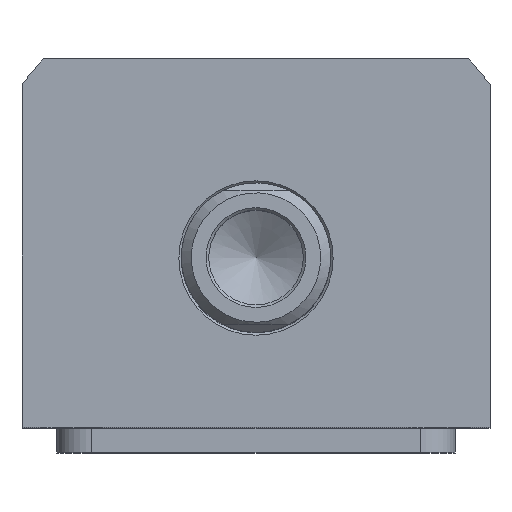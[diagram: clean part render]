
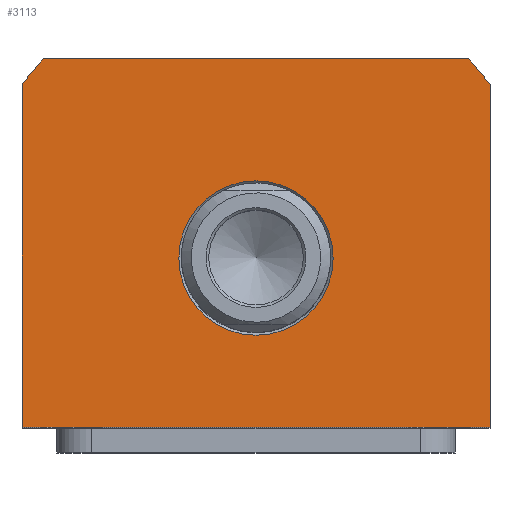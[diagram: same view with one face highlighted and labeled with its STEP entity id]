
A CAD part, top view. The second image highlights one B-rep face of the part: STEP entity #3113.
In plain terms, the highlighted planar face has unit normal (0, 0, 1).
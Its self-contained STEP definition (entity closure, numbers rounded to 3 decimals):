
#3113=ADVANCED_FACE('',(#3864,#3865),#3534,.T.);
#3534=PLANE('',#10758);
#3864=FACE_BOUND('',#4083,.T.);
#3865=FACE_BOUND('',#4084,.T.);
#4083=EDGE_LOOP('',(#6483));
#4084=EDGE_LOOP('',(#6484,#6485,#6486,#6487,#6488,#6489));
#4597=LINE('',#13018,#5408);
#4616=LINE('',#13693,#5427);
#4629=LINE('',#13726,#5440);
#4642=LINE('',#13784,#5453);
#5408=VECTOR('',#11169,1.);
#5427=VECTOR('',#11302,1.);
#5440=VECTOR('',#11323,1.);
#5453=VECTOR('',#11380,1.);
#6483=ORIENTED_EDGE('',*,*,#9434,.T.);
#6484=ORIENTED_EDGE('',*,*,#9519,.T.);
#6485=ORIENTED_EDGE('',*,*,#9427,.T.);
#6486=ORIENTED_EDGE('',*,*,#9557,.T.);
#6487=ORIENTED_EDGE('',*,*,#9535,.T.);
#6488=ORIENTED_EDGE('',*,*,#9544,.T.);
#6489=ORIENTED_EDGE('',*,*,#9562,.T.);
#8597=VERTEX_POINT('',#12988);
#8612=VERTEX_POINT('',#13017);
#8619=VERTEX_POINT('',#13034);
#8696=VERTEX_POINT('',#13689);
#8713=VERTEX_POINT('',#13725);
#8714=VERTEX_POINT('',#13727);
#8719=VERTEX_POINT('',#13742);
#9427=EDGE_CURVE('',#8597,#8612,#4597,.T.);
#9434=EDGE_CURVE('',#8619,#8619,#10566,.T.);
#9519=EDGE_CURVE('',#8696,#8597,#4616,.T.);
#9535=EDGE_CURVE('',#8714,#8713,#4629,.T.);
#9544=EDGE_CURVE('',#8713,#8719,#10604,.T.);
#9557=EDGE_CURVE('',#8612,#8714,#10610,.T.);
#9562=EDGE_CURVE('',#8719,#8696,#4642,.T.);
#10566=CIRCLE('',#10678,15.5);
#10604=CIRCLE('',#10741,58.5);
#10610=CIRCLE('',#10752,58.5);
#10678=AXIS2_PLACEMENT_3D('',#13033,#11182,#11183);
#10741=AXIS2_PLACEMENT_3D('',#13743,#11340,#11341);
#10752=AXIS2_PLACEMENT_3D('',#13775,#11368,#11369);
#10758=AXIS2_PLACEMENT_3D('',#13797,#11390,#11391);
#11169=DIRECTION('',(0.,1.,0.));
#11182=DIRECTION('',(0.,0.,-1.));
#11183=DIRECTION('',(1.,0.,0.));
#11302=DIRECTION('',(1.,0.,0.));
#11323=DIRECTION('',(-1.,0.,0.));
#11340=DIRECTION('',(0.,0.,1.));
#11341=DIRECTION('',(1.,0.,0.));
#11368=DIRECTION('',(0.,0.,1.));
#11369=DIRECTION('',(1.,0.,0.));
#11380=DIRECTION('',(0.,-1.,0.));
#11390=DIRECTION('',(0.,0.,1.));
#11391=DIRECTION('',(-1.,0.,0.));
#12988=CARTESIAN_POINT('',(47.,-34.,62.5));
#13017=CARTESIAN_POINT('',(47.,34.832,62.5));
#13018=CARTESIAN_POINT('',(47.,34.832,62.5));
#13033=CARTESIAN_POINT('',(0.,0.,62.5));
#13034=CARTESIAN_POINT('',(15.5,0.,62.5));
#13689=CARTESIAN_POINT('',(-47.,-34.,62.5));
#13693=CARTESIAN_POINT('',(47.,-34.,62.5));
#13725=CARTESIAN_POINT('',(-42.688,40.,62.5));
#13726=CARTESIAN_POINT('',(-42.688,40.,62.5));
#13727=CARTESIAN_POINT('',(42.688,40.,62.5));
#13742=CARTESIAN_POINT('',(-47.,34.832,62.5));
#13743=CARTESIAN_POINT('',(0.,0.,62.5));
#13775=CARTESIAN_POINT('',(0.,0.,62.5));
#13784=CARTESIAN_POINT('',(-47.,-34.,62.5));
#13797=CARTESIAN_POINT('',(0.,0.,62.5));
